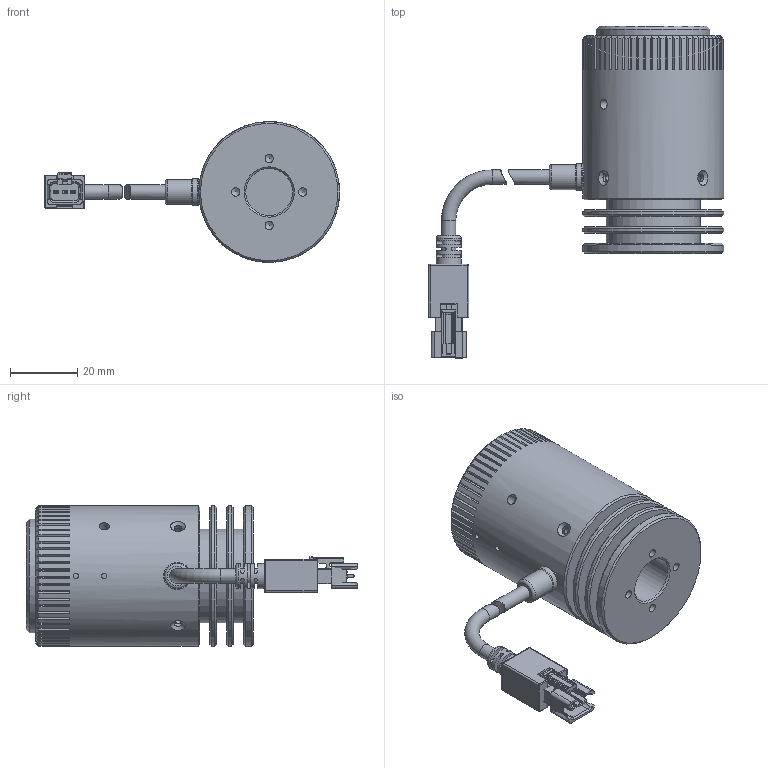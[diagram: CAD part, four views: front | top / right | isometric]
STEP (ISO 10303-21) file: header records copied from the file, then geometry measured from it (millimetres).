
FILE_DESCRIPTION (( 'STEP AP203' ), '1' );
FILE_NAME ('OPT-SL03-X-V1.2尨砩芞.STEP', '2025-02-12T00:19:12', ( '' ), ( '' ), 'SwSTEP 2.0', 'SolidWorks 2016', '' );
FILE_SCHEMA (( 'CONFIG_CONTROL_DESIGN' ));
Length unit declared in the file: millimetre
Products named in the file (1): OPT-SL03-X-V1.2尨砩芞
Bounding box: 88.09 x 99.06 x 42 mm (x, y, z)
Surface area: 28525 mm2 (no closed solid volume)
Topology: 0 solids, 6 shells, 894 faces, 2426 edges, 1604 vertices
Faces by surface type: plane 717, cylinder 117, cone 42, torus 10, sphere 4, bspline 4
Full cylindrical faces by diameter (mm): 1.6 x2, 2 x4, 2.4 x4, 2.5 x4, 3 x2, 4.3 x3, 7.5 x2, 8 x1, 14 x1, 16.5 x1, 22 x1, 25.4 x1, 28 x4, 30.662 x1, 33 x1, 33.8 x1, 34 x1, 36.8 x1, 38 x1, 38.1 x1, 38.4 x1, 42 x4
Entity records: 29233 total; most frequent: CARTESIAN_POINT 7677, ORIENTED_EDGE 4533, DIRECTION 4043, EDGE_CURVE 2304, VECTOR 1643, LINE 1643, VERTEX_POINT 1560, AXIS2_PLACEMENT_3D 1200
